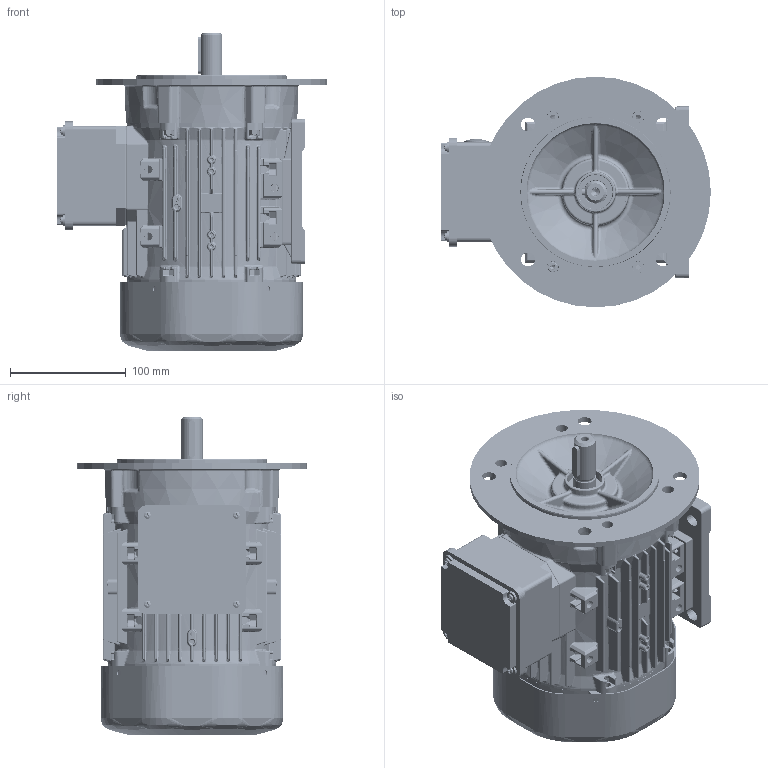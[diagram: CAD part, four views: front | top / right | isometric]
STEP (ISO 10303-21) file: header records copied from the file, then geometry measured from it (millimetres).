
FILE_DESCRIPTION(/* description */ (''),/* implementation_level */ '2;1');
FILE_NAME(/* name */ 'OUTLOOK VIEW QH80 PA B35 FF165 SPL.stp',/* time_stamp */ '2021-09-10T13:38:19+03:00',/* author */ (''),/* organization */ (''),/* preprocessor_version */ 'ST-DEVELOPER v16',/* originating_system */ 'SIEMENS PLM Software NX 11.0',/* authorisation */ '');
FILE_SCHEMA (('AUTOMOTIVE_DESIGN { 1 0 10303 214 3 1 1 1 }'));
Products named in the file (1): 26061960DD717nup
Bounding box: 233.25 x 199.5 x 275 mm (x, y, z)
Volume: 2511134.4 mm3; surface area: 1010323.4 mm2
Topology: 49 solids, 53 shells, 10629 faces, 25891 edges, 14922 vertices
Faces by surface type: bspline 3246, cylinder 3147, plane 2387, sphere 697, cone 547, torus 521, extrusion 84
Full cylindrical faces by diameter (mm): 0.1 x2, 3.3 x5, 3.985 x3, 4 x4, 4.2 x1, 4.22 x3, 4.5 x4, 5 x5, 5.3 x2, 5.5 x4, 6 x1, 6.4 x1, 6.6 x1, 8 x1, 8.5 x1, 10 x6, 12 x4, 18.38 x2, 18.4 x1, 19 x3, 19.4 x2, 20 x6, 20.2 x1, 20.5 x1, 25 x2, 28.8 x8, 30 x2, 38.45 x4, 40.59 x8, 47 x5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
Entity records: 430041 total; most frequent: CARTESIAN_POINT 160197, ORIENTED_EDGE 49474, DIRECTION 44463, EDGE_CURVE 24737, AXIS2_PLACEMENT_3D 18254, VERTEX_POINT 14751, EDGE_LOOP 11666, ADVANCED_FACE 10626
